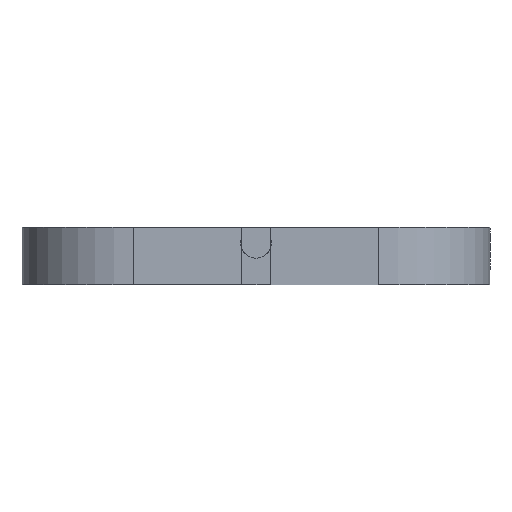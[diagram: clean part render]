
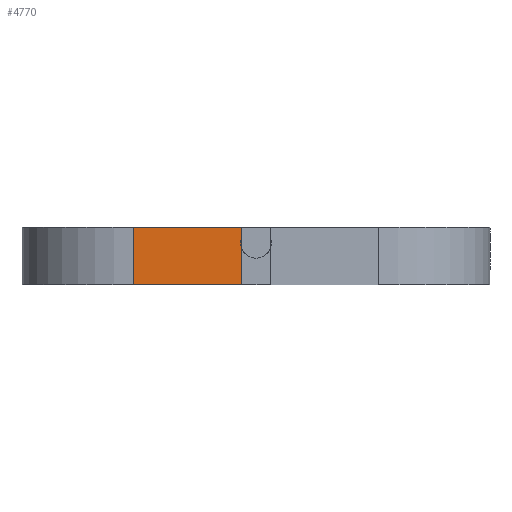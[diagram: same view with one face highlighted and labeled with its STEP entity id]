
A CAD part, front view. The second image highlights one B-rep face of the part: STEP entity #4770.
In plain terms, the highlighted planar face has unit normal (0, -1, 0).
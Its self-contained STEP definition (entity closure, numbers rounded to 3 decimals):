
#536=FACE_OUTER_BOUND('',#846,.T.);
#846=EDGE_LOOP('',(#4009,#4010,#4011,#4012));
#1524=LINE('',#9860,#1832);
#1525=LINE('',#9862,#1833);
#1526=LINE('',#9864,#1834);
#1527=LINE('',#9865,#1835);
#1832=VECTOR('',#6629,10.);
#1833=VECTOR('',#6630,10.);
#1834=VECTOR('',#6631,10.);
#1835=VECTOR('',#6632,10.);
#2303=VERTEX_POINT('',#9858);
#2304=VERTEX_POINT('',#9859);
#2305=VERTEX_POINT('',#9861);
#2306=VERTEX_POINT('',#9863);
#2941=EDGE_CURVE('',#2303,#2304,#1524,.T.);
#2942=EDGE_CURVE('',#2303,#2305,#1525,.T.);
#2943=EDGE_CURVE('',#2305,#2306,#1526,.T.);
#2944=EDGE_CURVE('',#2304,#2306,#1527,.T.);
#4009=ORIENTED_EDGE('',*,*,#2941,.F.);
#4010=ORIENTED_EDGE('',*,*,#2942,.T.);
#4011=ORIENTED_EDGE('',*,*,#2943,.T.);
#4012=ORIENTED_EDGE('',*,*,#2944,.F.);
#4542=PLANE('',#5334);
#4770=ADVANCED_FACE('',(#536),#4542,.T.);
#5334=AXIS2_PLACEMENT_3D('',#9857,#6627,#6628);
#6627=DIRECTION('center_axis',(0.,-1.,0.));
#6628=DIRECTION('ref_axis',(-1.,0.,0.));
#6629=DIRECTION('',(0.,0.,-1.));
#6630=DIRECTION('',(-1.,0.,0.));
#6631=DIRECTION('',(0.,0.,-1.));
#6632=DIRECTION('',(-1.,0.,0.));
#9857=CARTESIAN_POINT('Origin',(20.,-78.172,-30.));
#9858=CARTESIAN_POINT('',(-2.291,-78.172,-30.));
#9859=CARTESIAN_POINT('',(-2.291,-78.172,-39.3));
#9860=CARTESIAN_POINT('',(-2.291,-78.172,-30.));
#9861=CARTESIAN_POINT('',(-20.,-78.172,-30.));
#9862=CARTESIAN_POINT('',(20.,-78.172,-30.));
#9863=CARTESIAN_POINT('',(-20.,-78.172,-39.3));
#9864=CARTESIAN_POINT('',(-20.,-78.172,-30.));
#9865=CARTESIAN_POINT('',(-2.291,-78.172,-39.3));
